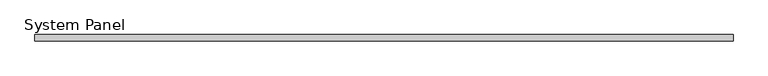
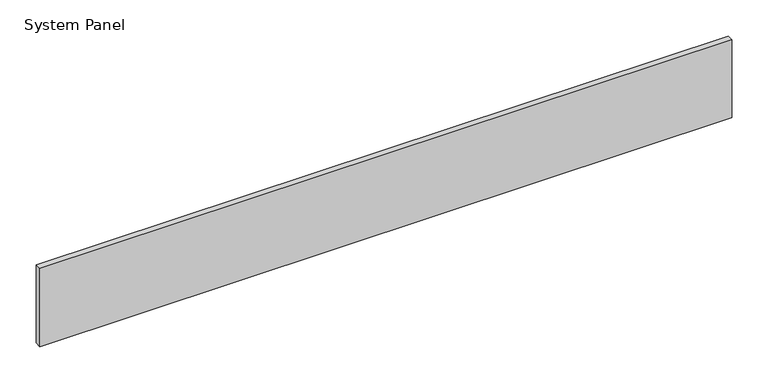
"""IFC4 building model written with IfcOpenShell, lengths in millimetres: plate geometry, System Panel : VACÍO."""

import ifcopenshell
import ifcopenshell.guid

model = None  # the IFC model being written
_history = None  # IfcOwnerHistory: only IFC2X3 demands one
_inside = {}  # id of a spatial element -> (the spatial element, [elements in it])
_under = {}  # id of a project, library or spatial element -> (it, [spatial elements below it])
_declared = {}  # id of a project -> (the project, [libraries it declares])
_typed = {}  # id of a type object -> (the type object, [elements of that type])
_made_of = {}  # id of a material, layer set ... -> (it, [elements and type objects made of it])


def new_model(schema):
    """Start an empty IFC model of exactly this schema.

    Asked for "IFC4X3", IfcOpenShell would pick the latest addendum, in which some entities
    have other attributes; the version numbers below select the first issue.
    IFC2X3 requires an IfcOwnerHistory on every rooted entity: one is made here for all.
    """
    global model, _history
    if schema == "IFC4X3":
        model = ifcopenshell.file(schema_version=(4, 3, 0, 0))
    else:
        model = ifcopenshell.file(schema=schema)
    _inside.clear()
    _under.clear()
    _declared.clear()
    _typed.clear()
    _made_of.clear()
    _history = None
    if model.schema == "IFC2X3":
        org = make("IfcOrganization", Name="unknown")
        user = make(
            "IfcPersonAndOrganization",
            ThePerson=make("IfcPerson", FamilyName="unknown"),
            TheOrganization=org,
        )
        app = make(
            "IfcApplication",
            ApplicationDeveloper=org,
            Version="unknown",
            ApplicationFullName="unknown",
            ApplicationIdentifier="unknown",
        )
        _history = make(
            "IfcOwnerHistory",
            OwningUser=user,
            OwningApplication=app,
            ChangeAction="ADDED",
            CreationDate=0,
        )
    return model


def make(cls, **values):
    """One entity of the class cls with the attributes given. An attribute that is None is left unset."""
    return model.create_entity(
        cls, **{name: value for name, value in values.items() if value is not None}
    )


def rooted(cls, **values):
    """An entity with a GlobalId (a new one), such as an element, a storey or a relation."""
    return make(cls, GlobalId=ifcopenshell.guid.new(), OwnerHistory=_history, **values)


def si_unit(unit_type, name, prefix=None):
    """IfcSIUnit, for example si_unit("LENGTHUNIT", "METRE", prefix="MILLI")."""
    return make("IfcSIUnit", UnitType=unit_type, Prefix=prefix, Name=name)


def assignment(units):
    """IfcUnitAssignment: the units of a project."""
    return None if units is None else make("IfcUnitAssignment", Units=units)


def point(xyz):
    """IfcCartesianPoint."""
    return None if xyz is None else make("IfcCartesianPoint", Coordinates=xyz)


def direction(xyz):
    """IfcDirection."""
    return None if xyz is None else make("IfcDirection", DirectionRatios=xyz)


def frame(location, z_axis=None, x_axis=None):
    """IfcAxis2Placement3D, a coordinate frame: its origin and axes. An axis left out is left unset."""
    return make(
        "IfcAxis2Placement3D",
        Location=point(location),
        Axis=direction(z_axis),
        RefDirection=direction(x_axis),
    )


def origin():
    """The frame at (0, 0, 0) with its axes left unset."""
    return frame((0.0, 0.0, 0.0))


def origin_with_axes():
    """The frame at (0, 0, 0) with the z axis (0, 0, 1) and the x axis (1, 0, 0) written out."""
    return frame((0.0, 0.0, 0.0), z_axis=(0.0, 0.0, 1.0), x_axis=(1.0, 0.0, 0.0))


def place(relative_to, where):
    """IfcLocalPlacement: puts the frame where relative to a parent placement (None: the world)."""
    return make(
        "IfcLocalPlacement", PlacementRelTo=relative_to, RelativePlacement=where
    )


def context(
    kind, dimensions, precision=None, world=None, true_north=None, identifier=None
):
    """IfcGeometricRepresentationContext, for example the 3D "Model" context."""
    return make(
        "IfcGeometricRepresentationContext",
        ContextIdentifier=identifier,
        ContextType=kind,
        CoordinateSpaceDimension=dimensions,
        Precision=precision,
        WorldCoordinateSystem=world,
        TrueNorth=true_north,
    )


def project(units=None, contexts=None):
    """IfcProject with its units and contexts."""
    return rooted(
        "IfcProject",
        Name="project",
        RepresentationContexts=contexts,
        UnitsInContext=assignment(units),
    )


def spatial(cls, under=None, at=None, **own):
    """A site, building, storey or space (cls), placed at a placement, below another one or the project."""
    s = rooted(cls, ObjectPlacement=at, **own)
    if under is not None:
        _under.setdefault(under.id(), (under, []))[1].append(s)
    return s


def polyline(points):
    """IfcPolyline through the points."""
    return make("IfcPolyline", Points=[point(p) for p in points])


def outline(outer, holes=None, kind="AREA"):
    """IfcArbitraryClosedProfileDef: a profile drawn as a closed curve; with holes, ...WithVoids."""
    if holes is None:
        return make("IfcArbitraryClosedProfileDef", ProfileType=kind, OuterCurve=outer)
    return make(
        "IfcArbitraryProfileDefWithVoids",
        ProfileType=kind,
        OuterCurve=outer,
        InnerCurves=holes,
    )


def extrude(swept, where, along, depth):
    """IfcExtrudedAreaSolid: the profile swept, set in the frame where, extruded along a direction by depth."""
    return make(
        "IfcExtrudedAreaSolid",
        SweptArea=swept,
        Position=where,
        ExtrudedDirection=direction(along),
        Depth=depth,
    )


def shape(context_of_items, identifier, shape_type, items):
    """IfcShapeRepresentation: the items that make up one representation, for example the "Body"."""
    return make(
        "IfcShapeRepresentation",
        ContextOfItems=context_of_items,
        RepresentationIdentifier=identifier,
        RepresentationType=shape_type,
        Items=items,
    )


def source(mapping_origin, context_of_items, identifier, shape_type, items):
    """IfcRepresentationMap: a shape defined once, which mapped items show again and again."""
    return make(
        "IfcRepresentationMap",
        MappingOrigin=mapping_origin,
        MappedRepresentation=shape(context_of_items, identifier, shape_type, items),
    )


def transform(
    local_origin,
    x_axis=None,
    y_axis=None,
    z_axis=None,
    scale=None,
    scale2=None,
    scale3=None,
    uniform=True,
):
    """IfcCartesianTransformationOperator3D, or its non-uniform kind. x_axis, y_axis, z_axis: its Axis1, 2, 3."""
    if uniform:
        return make(
            "IfcCartesianTransformationOperator3D",
            Axis1=direction(x_axis),
            Axis2=direction(y_axis),
            LocalOrigin=point(local_origin),
            Scale=scale,
            Axis3=direction(z_axis),
        )
    return make(
        "IfcCartesianTransformationOperator3DnonUniform",
        Axis1=direction(x_axis),
        Axis2=direction(y_axis),
        LocalOrigin=point(local_origin),
        Scale=scale,
        Axis3=direction(z_axis),
        Scale2=scale2,
        Scale3=scale3,
    )


def mapped(mapping_source, mapping_target):
    """IfcMappedItem: shows the shape of a source again, moved by a transform."""
    return make(
        "IfcMappedItem", MappingSource=mapping_source, MappingTarget=mapping_target
    )


def made_of(thing, what):
    """Note that an element or type object is made of a material, layer set ...; save() writes the relation."""
    if what is not None:
        _made_of.setdefault(what.id(), (what, []))[1].append(thing)
    return thing


def element(
    cls,
    number,
    at=None,
    inside=None,
    cuts=None,
    type_object=None,
    material=None,
    context=None,
    identifier="Body",
    shape_type=None,
    held_by="IfcProductDefinitionShape",
    body=None,
    shapes=None,
    **own,
):
    """One element of the class cls, such as IfcWall. Its Tag is "e" and its number.

    at: its placement. inside: the storey or other place that contains it. cuts: it is an
    opening in that element (IfcRelVoidsElement). A single representation is given by context,
    identifier, shape_type and body (its items); several are given by shapes. held_by: the class
    of the entity that holds the representations. save() writes the other relations.
    """
    e = rooted(cls, Tag="e%d" % number, ObjectPlacement=at, **own)
    if body is not None:
        shapes = [shape(context, identifier, shape_type, body)]
    if shapes is not None:
        e.Representation = make(held_by, Representations=shapes)
    if inside is not None:
        _inside.setdefault(inside.id(), (inside, []))[1].append(e)
    if cuts is not None:
        rooted(
            "IfcRelVoidsElement", RelatingBuildingElement=cuts, RelatedOpeningElement=e
        )
    if type_object is not None:
        _typed.setdefault(type_object.id(), (type_object, []))[1].append(e)
    return made_of(e, material)


def aggregate(whole, parts):
    """IfcRelAggregates: a whole, such as a stair, and the parts it consists of."""
    return rooted("IfcRelAggregates", RelatingObject=whole, RelatedObjects=parts)


def save(model, path):
    """Write the relations noted so far, then the file.

    IfcRelAggregates (storeys below a building ...), IfcRelContainedInSpatialStructure (elements
    in a storey), IfcRelDefinesByType, IfcRelAssociatesMaterial and IfcRelDeclares: one each for
    every whole, place, type object, material and project.
    """
    for whole, parts in _under.values():
        aggregate(whole, parts)
    for where, things in _inside.values():
        rooted(
            "IfcRelContainedInSpatialStructure",
            RelatedElements=things,
            RelatingStructure=where,
        )
    for kind, things in _typed.values():
        rooted("IfcRelDefinesByType", RelatedObjects=things, RelatingType=kind)
    for what, things in _made_of.values():
        rooted("IfcRelAssociatesMaterial", RelatedObjects=things, RelatingMaterial=what)
    for by, libraries in _declared.values():
        rooted("IfcRelDeclares", RelatingContext=by, RelatedDefinitions=libraries)
    model.write(path)


def system_panel_6a406881(model_context):
    return source(origin(), model_context, "Body", "SweptSolid", [
        extrude(outline(polyline([(550.6666668, -5.0), (-550.6666668, -5.0), (-550.6666668, 5.0), (550.6666668, 5.0), (550.6666668, -5.0)])), origin_with_axes(), (0.0, 0.0, 1.0), 131.4545455),
    ])


if __name__ == "__main__":
    model = new_model("IFC4")
    model_context = context("Model", 3, world=origin())
    ifc_project = project(units=[si_unit("LENGTHUNIT", "METRE", prefix="MILLI")], contexts=[model_context])
    site = spatial("IfcSite", under=ifc_project)
    building = spatial("IfcBuilding", under=site)
    placement = place(None, origin())
    system_panel_shape = system_panel_6a406881(model_context)
    element("IfcPlate", 1, ObjectType="System Panel : VACÍO", at=placement, inside=building, context=model_context, shape_type="MappedRepresentation", body=[
        mapped(system_panel_shape, transform((0.0, 0.0, 0.0), x_axis=(1.0, 0.0, 0.0), y_axis=(0.0, 1.0, 0.0), z_axis=(0.0, 0.0, 1.0))),
    ])
    save(model, "model.ifc")
